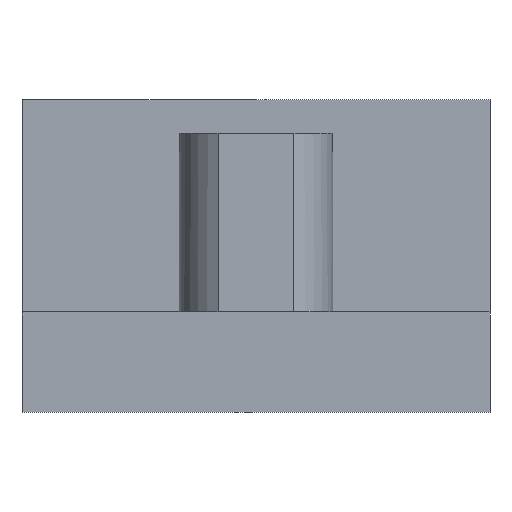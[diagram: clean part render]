
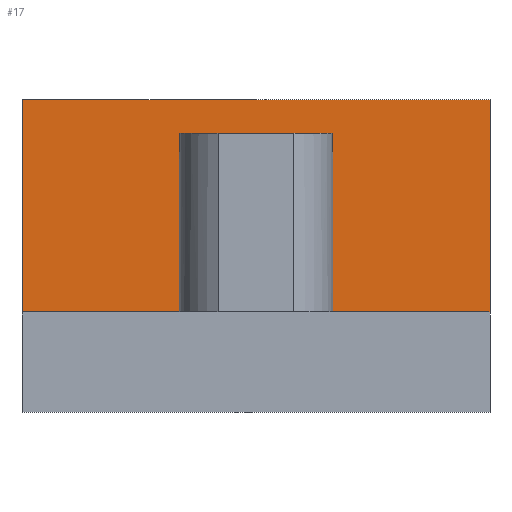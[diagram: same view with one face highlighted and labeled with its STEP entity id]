
A CAD part, left-side view. The second image highlights one B-rep face of the part: STEP entity #17.
In plain terms, the highlighted planar face has unit normal (-1, 0, 0).
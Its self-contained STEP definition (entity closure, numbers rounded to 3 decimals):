
#17 = ADVANCED_FACE('',(#18),#32,.F.);
#18 = FACE_BOUND('',#19,.F.);
#19 = EDGE_LOOP('',(#20,#55,#83,#111,#137,#163,#189,#212));
#20 = ORIENTED_EDGE('',*,*,#21,.F.);
#21 = EDGE_CURVE('',#22,#24,#26,.T.);
#22 = VERTEX_POINT('',#23);
#23 = CARTESIAN_POINT('',(4.5,-7.,9.35));
#24 = VERTEX_POINT('',#25);
#25 = CARTESIAN_POINT('',(4.5,7.,9.35));
#26 = SURFACE_CURVE('',#27,(#31,#43),.PCURVE_S1.);
#27 = LINE('',#28,#29);
#28 = CARTESIAN_POINT('',(4.5,-7.,9.35));
#29 = VECTOR('',#30,1.);
#30 = DIRECTION('',(-0.,1.,0.));
#31 = PCURVE('',#32,#37);
#32 = PLANE('',#33);
#33 = AXIS2_PLACEMENT_3D('',#34,#35,#36);
#34 = CARTESIAN_POINT('',(4.5,-7.,3.));
#35 = DIRECTION('',(1.,0.,-0.));
#36 = DIRECTION('',(0.,0.,1.));
#37 = DEFINITIONAL_REPRESENTATION('',(#38),#42);
#38 = LINE('',#39,#40);
#39 = CARTESIAN_POINT('',(6.35,0.));
#40 = VECTOR('',#41,1.);
#41 = DIRECTION('',(0.,-1.));
#42 = ( GEOMETRIC_REPRESENTATION_CONTEXT(2) 
PARAMETRIC_REPRESENTATION_CONTEXT() REPRESENTATION_CONTEXT('2D SPACE',''
  ) );
#43 = PCURVE('',#44,#49);
#44 = PLANE('',#45);
#45 = AXIS2_PLACEMENT_3D('',#46,#47,#48);
#46 = CARTESIAN_POINT('',(4.5,-7.,9.35));
#47 = DIRECTION('',(0.,0.,1.));
#48 = DIRECTION('',(1.,0.,-0.));
#49 = DEFINITIONAL_REPRESENTATION('',(#50),#54);
#50 = LINE('',#51,#52);
#51 = CARTESIAN_POINT('',(0.,0.));
#52 = VECTOR('',#53,1.);
#53 = DIRECTION('',(0.,1.));
#54 = ( GEOMETRIC_REPRESENTATION_CONTEXT(2) 
PARAMETRIC_REPRESENTATION_CONTEXT() REPRESENTATION_CONTEXT('2D SPACE',''
  ) );
#55 = ORIENTED_EDGE('',*,*,#56,.F.);
#56 = EDGE_CURVE('',#57,#22,#59,.T.);
#57 = VERTEX_POINT('',#58);
#58 = CARTESIAN_POINT('',(4.5,-7.,3.));
#59 = SURFACE_CURVE('',#60,(#64,#71),.PCURVE_S1.);
#60 = LINE('',#61,#62);
#61 = CARTESIAN_POINT('',(4.5,-7.,3.));
#62 = VECTOR('',#63,1.);
#63 = DIRECTION('',(0.,0.,1.));
#64 = PCURVE('',#32,#65);
#65 = DEFINITIONAL_REPRESENTATION('',(#66),#70);
#66 = LINE('',#67,#68);
#67 = CARTESIAN_POINT('',(0.,0.));
#68 = VECTOR('',#69,1.);
#69 = DIRECTION('',(1.,0.));
#70 = ( GEOMETRIC_REPRESENTATION_CONTEXT(2) 
PARAMETRIC_REPRESENTATION_CONTEXT() REPRESENTATION_CONTEXT('2D SPACE',''
  ) );
#71 = PCURVE('',#72,#77);
#72 = PLANE('',#73);
#73 = AXIS2_PLACEMENT_3D('',#74,#75,#76);
#74 = CARTESIAN_POINT('',(4.5,-7.,3.));
#75 = DIRECTION('',(-0.,1.,0.));
#76 = DIRECTION('',(0.,0.,1.));
#77 = DEFINITIONAL_REPRESENTATION('',(#78),#82);
#78 = LINE('',#79,#80);
#79 = CARTESIAN_POINT('',(0.,0.));
#80 = VECTOR('',#81,1.);
#81 = DIRECTION('',(1.,0.));
#82 = ( GEOMETRIC_REPRESENTATION_CONTEXT(2) 
PARAMETRIC_REPRESENTATION_CONTEXT() REPRESENTATION_CONTEXT('2D SPACE',''
  ) );
#83 = ORIENTED_EDGE('',*,*,#84,.T.);
#84 = EDGE_CURVE('',#57,#85,#87,.T.);
#85 = VERTEX_POINT('',#86);
#86 = CARTESIAN_POINT('',(4.5,-1.25,3.));
#87 = SURFACE_CURVE('',#88,(#92,#99),.PCURVE_S1.);
#88 = LINE('',#89,#90);
#89 = CARTESIAN_POINT('',(4.5,-7.,3.));
#90 = VECTOR('',#91,1.);
#91 = DIRECTION('',(-0.,1.,0.));
#92 = PCURVE('',#32,#93);
#93 = DEFINITIONAL_REPRESENTATION('',(#94),#98);
#94 = LINE('',#95,#96);
#95 = CARTESIAN_POINT('',(0.,0.));
#96 = VECTOR('',#97,1.);
#97 = DIRECTION('',(0.,-1.));
#98 = ( GEOMETRIC_REPRESENTATION_CONTEXT(2) 
PARAMETRIC_REPRESENTATION_CONTEXT() REPRESENTATION_CONTEXT('2D SPACE',''
  ) );
#99 = PCURVE('',#100,#105);
#100 = PLANE('',#101);
#101 = AXIS2_PLACEMENT_3D('',#102,#103,#104);
#102 = CARTESIAN_POINT('',(-6.,-7.,3.));
#103 = DIRECTION('',(0.,0.,1.));
#104 = DIRECTION('',(1.,0.,-0.));
#105 = DEFINITIONAL_REPRESENTATION('',(#106),#110);
#106 = LINE('',#107,#108);
#107 = CARTESIAN_POINT('',(10.5,0.));
#108 = VECTOR('',#109,1.);
#109 = DIRECTION('',(0.,1.));
#110 = ( GEOMETRIC_REPRESENTATION_CONTEXT(2) 
PARAMETRIC_REPRESENTATION_CONTEXT() REPRESENTATION_CONTEXT('2D SPACE',''
  ) );
#111 = ORIENTED_EDGE('',*,*,#112,.F.);
#112 = EDGE_CURVE('',#113,#85,#115,.T.);
#113 = VERTEX_POINT('',#114);
#114 = CARTESIAN_POINT('',(4.5,-1.25,7.85));
#115 = SURFACE_CURVE('',#116,(#120,#126),.PCURVE_S1.);
#116 = LINE('',#117,#118);
#117 = CARTESIAN_POINT('',(4.5,-1.25,3.));
#118 = VECTOR('',#119,1.);
#119 = DIRECTION('',(-0.,0.,-1.));
#120 = PCURVE('',#32,#121);
#121 = DEFINITIONAL_REPRESENTATION('',(#122),#125);
#122 = B_SPLINE_CURVE_WITH_KNOTS('',1,(#123,#124),.UNSPECIFIED.,.F.,.F.,
  (2,2),(-4.85,0.),.PIECEWISE_BEZIER_KNOTS.);
#123 = CARTESIAN_POINT('',(4.85,-5.75));
#124 = CARTESIAN_POINT('',(0.,-5.75));
#125 = ( GEOMETRIC_REPRESENTATION_CONTEXT(2) 
PARAMETRIC_REPRESENTATION_CONTEXT() REPRESENTATION_CONTEXT('2D SPACE',''
  ) );
#126 = PCURVE('',#127,#132);
#127 = PLANE('',#128);
#128 = AXIS2_PLACEMENT_3D('',#129,#130,#131);
#129 = CARTESIAN_POINT('',(1.3,-1.25,3.));
#130 = DIRECTION('',(-0.,1.,0.));
#131 = DIRECTION('',(0.,0.,1.));
#132 = DEFINITIONAL_REPRESENTATION('',(#133),#136);
#133 = B_SPLINE_CURVE_WITH_KNOTS('',1,(#134,#135),.UNSPECIFIED.,.F.,.F.,
  (2,2),(-4.85,0.),.PIECEWISE_BEZIER_KNOTS.);
#134 = CARTESIAN_POINT('',(4.85,3.2));
#135 = CARTESIAN_POINT('',(0.,3.2));
#136 = ( GEOMETRIC_REPRESENTATION_CONTEXT(2) 
PARAMETRIC_REPRESENTATION_CONTEXT() REPRESENTATION_CONTEXT('2D SPACE',''
  ) );
#137 = ORIENTED_EDGE('',*,*,#138,.T.);
#138 = EDGE_CURVE('',#113,#139,#141,.T.);
#139 = VERTEX_POINT('',#140);
#140 = CARTESIAN_POINT('',(4.5,1.25,7.85));
#141 = SURFACE_CURVE('',#142,(#146,#152),.PCURVE_S1.);
#142 = LINE('',#143,#144);
#143 = CARTESIAN_POINT('',(4.5,-4.125,7.85));
#144 = VECTOR('',#145,1.);
#145 = DIRECTION('',(-0.,1.,0.));
#146 = PCURVE('',#32,#147);
#147 = DEFINITIONAL_REPRESENTATION('',(#148),#151);
#148 = B_SPLINE_CURVE_WITH_KNOTS('',1,(#149,#150),.UNSPECIFIED.,.F.,.F.,
  (2,2),(2.875,5.375),.PIECEWISE_BEZIER_KNOTS.);
#149 = CARTESIAN_POINT('',(4.85,-5.75));
#150 = CARTESIAN_POINT('',(4.85,-8.25));
#151 = ( GEOMETRIC_REPRESENTATION_CONTEXT(2) 
PARAMETRIC_REPRESENTATION_CONTEXT() REPRESENTATION_CONTEXT('2D SPACE',''
  ) );
#152 = PCURVE('',#153,#158);
#153 = PLANE('',#154);
#154 = AXIS2_PLACEMENT_3D('',#155,#156,#157);
#155 = CARTESIAN_POINT('',(1.3,-1.25,7.85));
#156 = DIRECTION('',(0.,0.,1.));
#157 = DIRECTION('',(1.,0.,-0.));
#158 = DEFINITIONAL_REPRESENTATION('',(#159),#162);
#159 = B_SPLINE_CURVE_WITH_KNOTS('',1,(#160,#161),.UNSPECIFIED.,.F.,.F.,
  (2,2),(2.875,5.375),.PIECEWISE_BEZIER_KNOTS.);
#160 = CARTESIAN_POINT('',(3.2,0.));
#161 = CARTESIAN_POINT('',(3.2,2.5));
#162 = ( GEOMETRIC_REPRESENTATION_CONTEXT(2) 
PARAMETRIC_REPRESENTATION_CONTEXT() REPRESENTATION_CONTEXT('2D SPACE',''
  ) );
#163 = ORIENTED_EDGE('',*,*,#164,.T.);
#164 = EDGE_CURVE('',#139,#165,#167,.T.);
#165 = VERTEX_POINT('',#166);
#166 = CARTESIAN_POINT('',(4.5,1.25,3.));
#167 = SURFACE_CURVE('',#168,(#172,#178),.PCURVE_S1.);
#168 = LINE('',#169,#170);
#169 = CARTESIAN_POINT('',(4.5,1.25,3.));
#170 = VECTOR('',#171,1.);
#171 = DIRECTION('',(-0.,0.,-1.));
#172 = PCURVE('',#32,#173);
#173 = DEFINITIONAL_REPRESENTATION('',(#174),#177);
#174 = B_SPLINE_CURVE_WITH_KNOTS('',1,(#175,#176),.UNSPECIFIED.,.F.,.F.,
  (2,2),(-4.85,0.),.PIECEWISE_BEZIER_KNOTS.);
#175 = CARTESIAN_POINT('',(4.85,-8.25));
#176 = CARTESIAN_POINT('',(0.,-8.25));
#177 = ( GEOMETRIC_REPRESENTATION_CONTEXT(2) 
PARAMETRIC_REPRESENTATION_CONTEXT() REPRESENTATION_CONTEXT('2D SPACE',''
  ) );
#178 = PCURVE('',#179,#184);
#179 = PLANE('',#180);
#180 = AXIS2_PLACEMENT_3D('',#181,#182,#183);
#181 = CARTESIAN_POINT('',(1.3,1.25,3.));
#182 = DIRECTION('',(-0.,1.,0.));
#183 = DIRECTION('',(0.,0.,1.));
#184 = DEFINITIONAL_REPRESENTATION('',(#185),#188);
#185 = B_SPLINE_CURVE_WITH_KNOTS('',1,(#186,#187),.UNSPECIFIED.,.F.,.F.,
  (2,2),(-4.85,0.),.PIECEWISE_BEZIER_KNOTS.);
#186 = CARTESIAN_POINT('',(4.85,3.2));
#187 = CARTESIAN_POINT('',(0.,3.2));
#188 = ( GEOMETRIC_REPRESENTATION_CONTEXT(2) 
PARAMETRIC_REPRESENTATION_CONTEXT() REPRESENTATION_CONTEXT('2D SPACE',''
  ) );
#189 = ORIENTED_EDGE('',*,*,#190,.T.);
#190 = EDGE_CURVE('',#165,#191,#193,.T.);
#191 = VERTEX_POINT('',#192);
#192 = CARTESIAN_POINT('',(4.5,7.,3.));
#193 = SURFACE_CURVE('',#194,(#198,#205),.PCURVE_S1.);
#194 = LINE('',#195,#196);
#195 = CARTESIAN_POINT('',(4.5,-7.,3.));
#196 = VECTOR('',#197,1.);
#197 = DIRECTION('',(-0.,1.,0.));
#198 = PCURVE('',#32,#199);
#199 = DEFINITIONAL_REPRESENTATION('',(#200),#204);
#200 = LINE('',#201,#202);
#201 = CARTESIAN_POINT('',(0.,0.));
#202 = VECTOR('',#203,1.);
#203 = DIRECTION('',(0.,-1.));
#204 = ( GEOMETRIC_REPRESENTATION_CONTEXT(2) 
PARAMETRIC_REPRESENTATION_CONTEXT() REPRESENTATION_CONTEXT('2D SPACE',''
  ) );
#205 = PCURVE('',#100,#206);
#206 = DEFINITIONAL_REPRESENTATION('',(#207),#211);
#207 = LINE('',#208,#209);
#208 = CARTESIAN_POINT('',(10.5,0.));
#209 = VECTOR('',#210,1.);
#210 = DIRECTION('',(0.,1.));
#211 = ( GEOMETRIC_REPRESENTATION_CONTEXT(2) 
PARAMETRIC_REPRESENTATION_CONTEXT() REPRESENTATION_CONTEXT('2D SPACE',''
  ) );
#212 = ORIENTED_EDGE('',*,*,#213,.T.);
#213 = EDGE_CURVE('',#191,#24,#214,.T.);
#214 = SURFACE_CURVE('',#215,(#219,#226),.PCURVE_S1.);
#215 = LINE('',#216,#217);
#216 = CARTESIAN_POINT('',(4.5,7.,3.));
#217 = VECTOR('',#218,1.);
#218 = DIRECTION('',(0.,0.,1.));
#219 = PCURVE('',#32,#220);
#220 = DEFINITIONAL_REPRESENTATION('',(#221),#225);
#221 = LINE('',#222,#223);
#222 = CARTESIAN_POINT('',(0.,-14.));
#223 = VECTOR('',#224,1.);
#224 = DIRECTION('',(1.,0.));
#225 = ( GEOMETRIC_REPRESENTATION_CONTEXT(2) 
PARAMETRIC_REPRESENTATION_CONTEXT() REPRESENTATION_CONTEXT('2D SPACE',''
  ) );
#226 = PCURVE('',#227,#232);
#227 = PLANE('',#228);
#228 = AXIS2_PLACEMENT_3D('',#229,#230,#231);
#229 = CARTESIAN_POINT('',(4.5,7.,3.));
#230 = DIRECTION('',(-0.,1.,0.));
#231 = DIRECTION('',(0.,0.,1.));
#232 = DEFINITIONAL_REPRESENTATION('',(#233),#237);
#233 = LINE('',#234,#235);
#234 = CARTESIAN_POINT('',(0.,0.));
#235 = VECTOR('',#236,1.);
#236 = DIRECTION('',(1.,0.));
#237 = ( GEOMETRIC_REPRESENTATION_CONTEXT(2) 
PARAMETRIC_REPRESENTATION_CONTEXT() REPRESENTATION_CONTEXT('2D SPACE',''
  ) );
